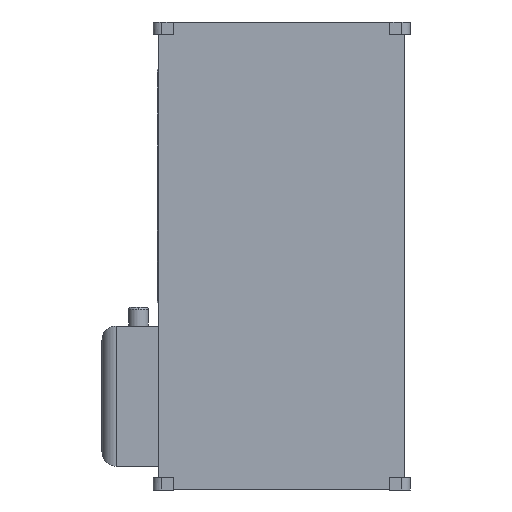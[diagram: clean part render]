
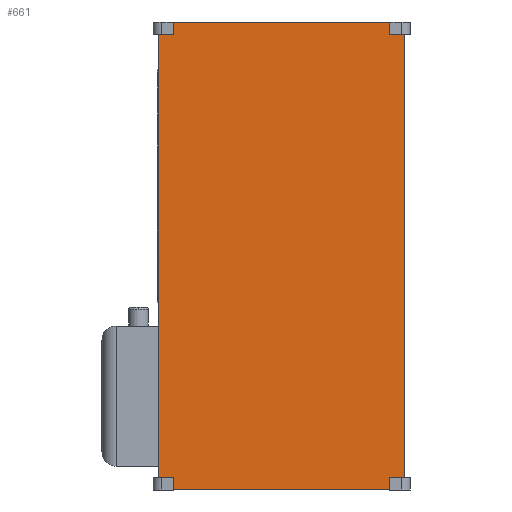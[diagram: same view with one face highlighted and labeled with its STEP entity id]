
A CAD part, left-side view. The second image highlights one B-rep face of the part: STEP entity #661.
In plain terms, the highlighted planar face has unit normal (-1, 0, 0).
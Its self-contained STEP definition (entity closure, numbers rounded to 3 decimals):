
#661=ADVANCED_FACE('',(#1417),#1418,.F.);
#1417=FACE_OUTER_BOUND('',#2260,.T.);
#1418=PLANE('',#2261);
#2260=EDGE_LOOP('',(#4384,#4385,#4386,#4387,#4388,#4389,#4390,#4391,#4392,#4393,#4394,#4395,#4396,#4397,#4398,#4399,#4400,#4401,#4402,#4403));
#2261=AXIS2_PLACEMENT_3D('',#4404,#4405,#4406);
#4384=ORIENTED_EDGE('',*,*,#6060,.T.);
#4385=ORIENTED_EDGE('',*,*,#6051,.T.);
#4386=ORIENTED_EDGE('',*,*,#5792,.T.);
#4387=ORIENTED_EDGE('',*,*,#6101,.F.);
#4388=ORIENTED_EDGE('',*,*,#6102,.T.);
#4389=ORIENTED_EDGE('',*,*,#6103,.T.);
#4390=ORIENTED_EDGE('',*,*,#6104,.T.);
#4391=ORIENTED_EDGE('',*,*,#6105,.T.);
#4392=ORIENTED_EDGE('',*,*,#6106,.T.);
#4393=ORIENTED_EDGE('',*,*,#6107,.T.);
#4394=ORIENTED_EDGE('',*,*,#6108,.T.);
#4395=ORIENTED_EDGE('',*,*,#6109,.T.);
#4396=ORIENTED_EDGE('',*,*,#6110,.T.);
#4397=ORIENTED_EDGE('',*,*,#6111,.F.);
#4398=ORIENTED_EDGE('',*,*,#6112,.T.);
#4399=ORIENTED_EDGE('',*,*,#6113,.T.);
#4400=ORIENTED_EDGE('',*,*,#6114,.T.);
#4401=ORIENTED_EDGE('',*,*,#6115,.T.);
#4402=ORIENTED_EDGE('',*,*,#6074,.T.);
#4403=ORIENTED_EDGE('',*,*,#6099,.T.);
#4404=CARTESIAN_POINT('',(-520.0,0.,-492.5));
#4405=DIRECTION('',(1.0,0.,0.));
#4406=DIRECTION('',(0.,0.,-1.0));
#5792=EDGE_CURVE('',#7244,#7242,#7245,.T.);
#6051=EDGE_CURVE('',#7582,#7244,#7583,.T.);
#6060=EDGE_CURVE('',#7598,#7582,#7599,.T.);
#6074=EDGE_CURVE('',#7614,#7612,#7615,.T.);
#6099=EDGE_CURVE('',#7612,#7598,#7656,.T.);
#6101=EDGE_CURVE('',#7658,#7242,#7659,.T.);
#6102=EDGE_CURVE('',#7658,#7660,#7661,.T.);
#6103=EDGE_CURVE('',#7660,#7662,#7663,.T.);
#6104=EDGE_CURVE('',#7662,#7664,#7665,.T.);
#6105=EDGE_CURVE('',#7664,#7666,#7667,.T.);
#6106=EDGE_CURVE('',#7666,#7668,#7669,.T.);
#6107=EDGE_CURVE('',#7668,#7670,#7671,.T.);
#6108=EDGE_CURVE('',#7670,#7672,#7673,.T.);
#6109=EDGE_CURVE('',#7672,#7674,#7675,.T.);
#6110=EDGE_CURVE('',#7674,#7676,#7677,.T.);
#6111=EDGE_CURVE('',#7678,#7676,#7679,.T.);
#6112=EDGE_CURVE('',#7678,#7680,#7681,.T.);
#6113=EDGE_CURVE('',#7680,#7682,#7683,.T.);
#6114=EDGE_CURVE('',#7682,#7684,#7685,.T.);
#6115=EDGE_CURVE('',#7684,#7614,#7686,.T.);
#7242=VERTEX_POINT('',#9094);
#7244=VERTEX_POINT('',#9097);
#7245=LINE('',#9098,#9099);
#7582=VERTEX_POINT('',#9530);
#7583=LINE('',#9531,#9532);
#7598=VERTEX_POINT('',#9551);
#7599=LINE('',#9552,#9553);
#7612=VERTEX_POINT('',#9571);
#7614=VERTEX_POINT('',#9574);
#7615=LINE('',#9575,#9576);
#7656=LINE('',#9640,#9641);
#7658=VERTEX_POINT('',#9643);
#7659=LINE('',#9644,#9645);
#7660=VERTEX_POINT('',#9646);
#7661=LINE('',#9647,#9648);
#7662=VERTEX_POINT('',#9649);
#7663=LINE('',#9650,#9651);
#7664=VERTEX_POINT('',#9652);
#7665=LINE('',#9653,#9654);
#7666=VERTEX_POINT('',#9655);
#7667=LINE('',#9656,#9657);
#7668=VERTEX_POINT('',#9658);
#7669=LINE('',#9659,#9660);
#7670=VERTEX_POINT('',#9661);
#7671=LINE('',#9662,#9663);
#7672=VERTEX_POINT('',#9664);
#7673=LINE('',#9665,#9666);
#7674=VERTEX_POINT('',#9667);
#7675=LINE('',#9668,#9669);
#7676=VERTEX_POINT('',#9670);
#7677=LINE('',#9671,#9672);
#7678=VERTEX_POINT('',#9673);
#7679=LINE('',#9674,#9675);
#7680=VERTEX_POINT('',#9676);
#7681=LINE('',#9677,#9678);
#7682=VERTEX_POINT('',#9679);
#7683=LINE('',#9680,#9681);
#7684=VERTEX_POINT('',#9682);
#7685=LINE('',#9683,#9684);
#7686=LINE('',#9685,#9686);
#9094=CARTESIAN_POINT('',(-520.0,228.0,-985.0));
#9097=CARTESIAN_POINT('',(-520.0,228.0,-959.375));
#9098=CARTESIAN_POINT('',(-520.0,228.0,-732.594));
#9099=VECTOR('',#11014,1.0);
#9530=CARTESIAN_POINT('',(-520.0,258.916,-959.375));
#9531=CARTESIAN_POINT('',(-520.0,124.75,-959.375));
#9532=VECTOR('',#11337,1.0);
#9551=CARTESIAN_POINT('',(-520.0,258.916,-960.275));
#9552=CARTESIAN_POINT('',(-520.0,258.916,-972.188));
#9553=VECTOR('',#11351,1.0);
#9571=CARTESIAN_POINT('',(-520.0,258.96,-960.275));
#9574=CARTESIAN_POINT('',(-520.0,258.96,-24.725));
#9575=CARTESIAN_POINT('',(-520.0,258.96,-492.5));
#9576=VECTOR('',#11364,1.0);
#9640=CARTESIAN_POINT('',(-520.0,124.55,-960.275));
#9641=VECTOR('',#11388,1.0);
#9643=CARTESIAN_POINT('',(-520.0,-228.0,-985.0));
#9644=CARTESIAN_POINT('',(-520.0,0.,-985.0));
#9645=VECTOR('',#11389,1.0);
#9646=CARTESIAN_POINT('',(-520.0,-228.0,-959.375));
#9647=CARTESIAN_POINT('',(-520.0,-228.0,-732.594));
#9648=VECTOR('',#11390,1.0);
#9649=CARTESIAN_POINT('',(-520.0,-258.916,-959.375));
#9650=CARTESIAN_POINT('',(-520.0,-124.75,-959.375));
#9651=VECTOR('',#11391,1.0);
#9652=CARTESIAN_POINT('',(-520.0,-258.916,-960.275));
#9653=CARTESIAN_POINT('',(-520.0,-258.916,-972.188));
#9654=VECTOR('',#11392,1.0);
#9655=CARTESIAN_POINT('',(-520.0,-258.96,-960.275));
#9656=CARTESIAN_POINT('',(-520.0,-124.55,-960.275));
#9657=VECTOR('',#11393,1.0);
#9658=CARTESIAN_POINT('',(-520.0,-258.96,-24.725));
#9659=CARTESIAN_POINT('',(-520.0,-258.96,-492.5));
#9660=VECTOR('',#11394,1.0);
#9661=CARTESIAN_POINT('',(-520.0,-258.916,-24.725));
#9662=CARTESIAN_POINT('',(-520.0,-124.55,-24.725));
#9663=VECTOR('',#11395,1.0);
#9664=CARTESIAN_POINT('',(-520.0,-258.916,-25.625));
#9665=CARTESIAN_POINT('',(-520.0,-258.916,-12.813));
#9666=VECTOR('',#11396,1.0);
#9667=CARTESIAN_POINT('',(-520.0,-228.0,-25.625));
#9668=CARTESIAN_POINT('',(-520.0,-124.75,-25.625));
#9669=VECTOR('',#11397,1.0);
#9670=CARTESIAN_POINT('',(-520.0,-228.0,0.));
#9671=CARTESIAN_POINT('',(-520.0,-228.0,-252.406));
#9672=VECTOR('',#11398,1.0);
#9673=CARTESIAN_POINT('',(-520.0,228.0,0.));
#9674=CARTESIAN_POINT('',(-520.0,0.,0.));
#9675=VECTOR('',#11399,1.0);
#9676=CARTESIAN_POINT('',(-520.0,228.0,-25.625));
#9677=CARTESIAN_POINT('',(-520.0,228.0,-252.406));
#9678=VECTOR('',#11400,1.0);
#9679=CARTESIAN_POINT('',(-520.0,258.916,-25.625));
#9680=CARTESIAN_POINT('',(-520.0,124.75,-25.625));
#9681=VECTOR('',#11401,1.0);
#9682=CARTESIAN_POINT('',(-520.0,258.916,-24.725));
#9683=CARTESIAN_POINT('',(-520.0,258.916,-12.813));
#9684=VECTOR('',#11402,1.0);
#9685=CARTESIAN_POINT('',(-520.0,124.55,-24.725));
#9686=VECTOR('',#11403,1.0);
#11014=DIRECTION('',(0.,0.,-1.0));
#11337=DIRECTION('',(0.,-1.0,0.0));
#11351=DIRECTION('',(0.,0.,1.0));
#11364=DIRECTION('',(0.,0.,-1.0));
#11388=DIRECTION('',(0.,-1.0,0.0));
#11389=DIRECTION('',(0.,1.0,0.0));
#11390=DIRECTION('',(0.,0.,1.0));
#11391=DIRECTION('',(0.,-1.0,0.0));
#11392=DIRECTION('',(0.,0.,-1.0));
#11393=DIRECTION('',(0.,-1.0,0.0));
#11394=DIRECTION('',(0.,0.,1.0));
#11395=DIRECTION('',(0.,1.0,0.0));
#11396=DIRECTION('',(0.,0.,-1.0));
#11397=DIRECTION('',(0.,1.0,0.0));
#11398=DIRECTION('',(0.,0.,1.0));
#11399=DIRECTION('',(0.,-1.0,0.0));
#11400=DIRECTION('',(0.,0.,-1.0));
#11401=DIRECTION('',(0.,1.0,0.0));
#11402=DIRECTION('',(0.,0.,1.0));
#11403=DIRECTION('',(0.,1.0,0.0));
